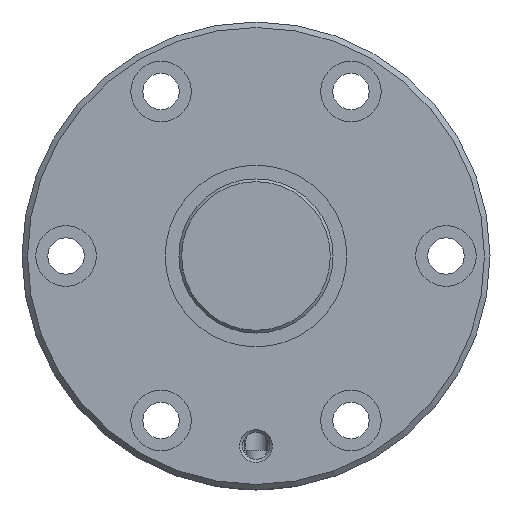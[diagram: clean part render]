
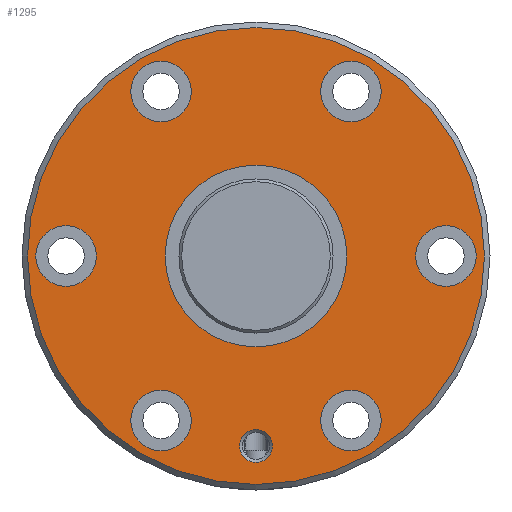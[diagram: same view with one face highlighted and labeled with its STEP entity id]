
A CAD part, left-side view. The second image highlights one B-rep face of the part: STEP entity #1295.
In plain terms, the highlighted planar face has unit normal (-1, 0, 0).
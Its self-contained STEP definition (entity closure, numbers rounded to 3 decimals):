
#145=PLANE('',#1429);
#212=ORIENTED_EDGE('',*,*,#518,.T.);
#213=ORIENTED_EDGE('',*,*,#519,.T.);
#214=ORIENTED_EDGE('',*,*,#520,.T.);
#215=ORIENTED_EDGE('',*,*,#521,.T.);
#216=ORIENTED_EDGE('',*,*,#522,.T.);
#217=ORIENTED_EDGE('',*,*,#523,.T.);
#218=ORIENTED_EDGE('',*,*,#524,.T.);
#219=ORIENTED_EDGE('',*,*,#525,.T.);
#220=ORIENTED_EDGE('',*,*,#517,.F.);
#517=EDGE_CURVE('',#675,#675,#795,.T.);
#518=EDGE_CURVE('',#676,#676,#796,.T.);
#519=EDGE_CURVE('',#677,#677,#797,.F.);
#520=EDGE_CURVE('',#678,#678,#798,.T.);
#521=EDGE_CURVE('',#679,#679,#799,.T.);
#522=EDGE_CURVE('',#680,#680,#800,.T.);
#523=EDGE_CURVE('',#681,#681,#801,.T.);
#524=EDGE_CURVE('',#682,#682,#802,.T.);
#525=EDGE_CURVE('',#683,#683,#803,.T.);
#675=VERTEX_POINT('',#2120);
#676=VERTEX_POINT('',#2123);
#677=VERTEX_POINT('',#2125);
#678=VERTEX_POINT('',#2127);
#679=VERTEX_POINT('',#2129);
#680=VERTEX_POINT('',#2131);
#681=VERTEX_POINT('',#2133);
#682=VERTEX_POINT('',#2135);
#683=VERTEX_POINT('',#2137);
#795=CIRCLE('',#1428,41.5);
#796=CIRCLE('',#1430,16.5);
#797=CIRCLE('',#1431,5.5);
#798=CIRCLE('',#1432,3.);
#799=CIRCLE('',#1433,5.5);
#800=CIRCLE('',#1434,5.5);
#801=CIRCLE('',#1435,5.5);
#802=CIRCLE('',#1436,5.5);
#803=CIRCLE('',#1437,5.5);
#902=EDGE_LOOP('',(#212));
#903=EDGE_LOOP('',(#213));
#904=EDGE_LOOP('',(#214));
#905=EDGE_LOOP('',(#215));
#906=EDGE_LOOP('',(#216));
#907=EDGE_LOOP('',(#217));
#908=EDGE_LOOP('',(#218));
#909=EDGE_LOOP('',(#219));
#910=EDGE_LOOP('',(#220));
#1083=FACE_BOUND('',#902,.T.);
#1084=FACE_BOUND('',#903,.T.);
#1085=FACE_BOUND('',#904,.T.);
#1086=FACE_BOUND('',#905,.T.);
#1087=FACE_BOUND('',#906,.T.);
#1088=FACE_BOUND('',#907,.T.);
#1089=FACE_BOUND('',#908,.T.);
#1090=FACE_BOUND('',#909,.T.);
#1091=FACE_BOUND('',#910,.T.);
#1295=ADVANCED_FACE('',(#1083,#1084,#1085,#1086,#1087,#1088,#1089,#1090,
#1091),#145,.T.);
#1428=AXIS2_PLACEMENT_3D('',#2119,#1654,#1655);
#1429=AXIS2_PLACEMENT_3D('',#2121,#1656,#1657);
#1430=AXIS2_PLACEMENT_3D('',#2122,#1658,#1659);
#1431=AXIS2_PLACEMENT_3D('',#2124,#1660,#1661);
#1432=AXIS2_PLACEMENT_3D('',#2126,#1662,#1663);
#1433=AXIS2_PLACEMENT_3D('',#2128,#1664,#1665);
#1434=AXIS2_PLACEMENT_3D('',#2130,#1666,#1667);
#1435=AXIS2_PLACEMENT_3D('',#2132,#1668,#1669);
#1436=AXIS2_PLACEMENT_3D('',#2134,#1670,#1671);
#1437=AXIS2_PLACEMENT_3D('',#2136,#1672,#1673);
#1654=DIRECTION('',(1.,0.,0.));
#1655=DIRECTION('',(0.,0.,-1.));
#1656=DIRECTION('',(-1.,0.,0.));
#1657=DIRECTION('',(0.,0.,1.));
#1658=DIRECTION('',(1.,0.,0.));
#1659=DIRECTION('',(0.,0.,-1.));
#1660=DIRECTION('',(-1.,0.,0.));
#1661=DIRECTION('',(0.,0.,1.));
#1662=DIRECTION('',(1.,0.,0.));
#1663=DIRECTION('',(0.,0.,-1.));
#1664=DIRECTION('',(1.,0.,0.));
#1665=DIRECTION('',(0.,0.,-1.));
#1666=DIRECTION('',(1.,0.,0.));
#1667=DIRECTION('',(0.,0.,-1.));
#1668=DIRECTION('',(1.,0.,0.));
#1669=DIRECTION('',(0.,0.,-1.));
#1670=DIRECTION('',(1.,0.,0.));
#1671=DIRECTION('',(0.,0.,-1.));
#1672=DIRECTION('',(1.,0.,0.));
#1673=DIRECTION('',(0.,0.,-1.));
#2119=CARTESIAN_POINT('',(0.,0.,0.));
#2120=CARTESIAN_POINT('',(0.,0.,-41.5));
#2121=CARTESIAN_POINT('',(0.,41.5,0.));
#2122=CARTESIAN_POINT('',(0.,0.,0.));
#2123=CARTESIAN_POINT('',(0.,0.,-16.5));
#2124=CARTESIAN_POINT('',(0.,34.5,0.));
#2125=CARTESIAN_POINT('',(0.,34.5,5.5));
#2126=CARTESIAN_POINT('',(0.,0.,-34.5));
#2127=CARTESIAN_POINT('',(0.,0.,-37.5));
#2128=CARTESIAN_POINT('',(0.,17.25,29.878));
#2129=CARTESIAN_POINT('',(0.,17.25,24.378));
#2130=CARTESIAN_POINT('',(0.,-17.25,-29.878));
#2131=CARTESIAN_POINT('',(0.,-17.25,-35.378));
#2132=CARTESIAN_POINT('',(0.,-17.25,29.878));
#2133=CARTESIAN_POINT('',(0.,-17.25,24.378));
#2134=CARTESIAN_POINT('',(0.,17.25,-29.878));
#2135=CARTESIAN_POINT('',(0.,17.25,-35.378));
#2136=CARTESIAN_POINT('',(0.,-34.5,0.));
#2137=CARTESIAN_POINT('',(0.,-34.5,-5.5));
